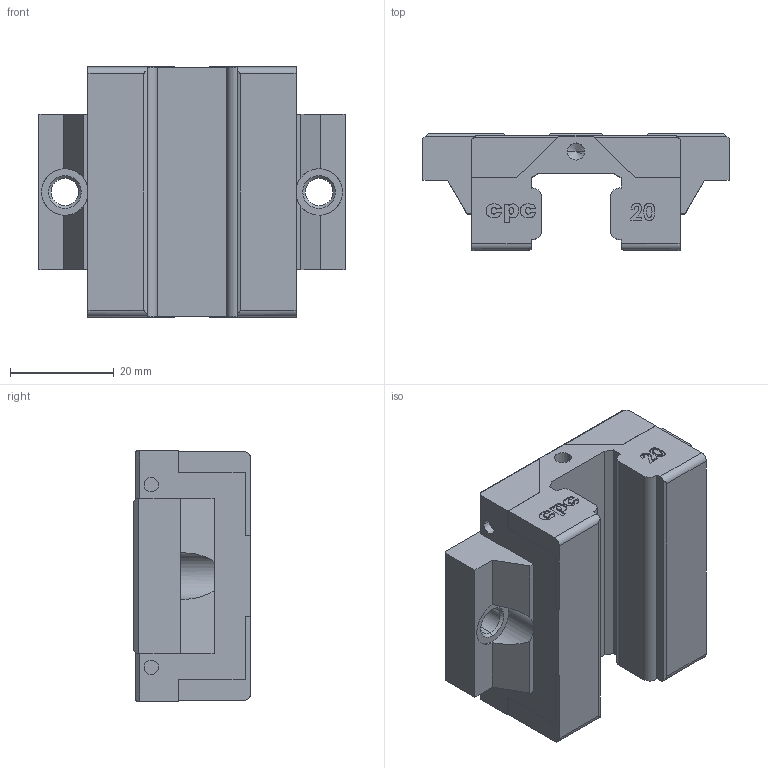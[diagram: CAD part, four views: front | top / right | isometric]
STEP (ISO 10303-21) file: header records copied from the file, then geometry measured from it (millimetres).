
FILE_DESCRIPTION (( 'STEP AP203' ), '1' );
FILE_NAME ('AR20_FS.STEP', '2009-08-03T10:39:01', ( 'cpc' ), ( '' ), 'SwSTEP 2.0', 'SolidWorks 2007', '' );
FILE_SCHEMA (( 'CONFIG_CONTROL_DESIGN' ));
Length unit declared in the file: millimetre
Products named in the file (1): AR20_FS
Bounding box: 59 x 22.5 x 48.2 mm (x, y, z)
Volume: 37621.2 mm3; surface area: 10887.3 mm2
Topology: 1 solids, 1 shells, 274 faces, 746 edges, 490 vertices
Faces by surface type: plane 142, bspline 90, cylinder 30, cone 12
Entity records: 13435 total; most frequent: CARTESIAN_POINT 7065, ORIENTED_EDGE 1484, DIRECTION 980, EDGE_CURVE 742, VERTEX_POINT 490, VECTOR 474, LINE 474, EDGE_LOOP 298
